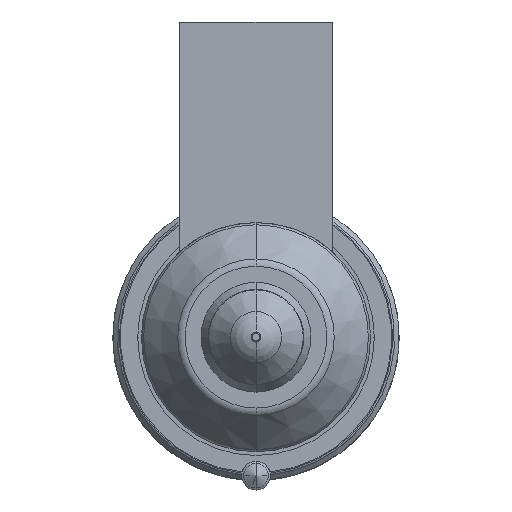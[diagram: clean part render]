
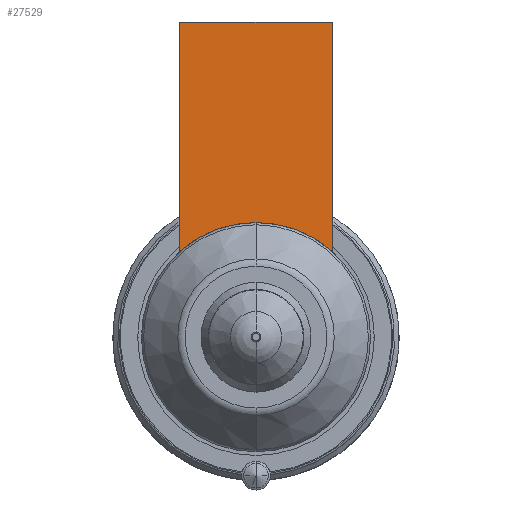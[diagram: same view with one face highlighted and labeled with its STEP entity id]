
A CAD part, front view. The second image highlights one B-rep face of the part: STEP entity #27529.
In plain terms, the highlighted planar face has unit normal (0, -1, 0).
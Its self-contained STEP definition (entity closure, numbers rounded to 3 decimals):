
#26607=DIRECTION('',(0.,0.,-1.));
#26608=VECTOR('',#26607,24.056);
#26609=CARTESIAN_POINT('',(-8.,-56.,33.));
#26610=LINE('',#26609,#26608);
#26647=DIRECTION('',(1.,0.,0.));
#26648=VECTOR('',#26647,16.);
#26649=CARTESIAN_POINT('',(-8.,-56.,33.));
#26650=LINE('',#26649,#26648);
#26654=CARTESIAN_POINT('',(0.,-56.,0.));
#26655=DIRECTION('',(0.,-1.,0.));
#26656=DIRECTION('',(0.667,0.,0.745));
#26657=AXIS2_PLACEMENT_3D('',#26654,#26655,#26656);
#26662=CARTESIAN_POINT('',(0.,-56.,0.));
#26663=DIRECTION('',(0.,-1.,0.));
#26664=DIRECTION('',(0.,0.,1.));
#26665=AXIS2_PLACEMENT_3D('',#26662,#26663,#26664);
#26698=DIRECTION('',(0.,0.,-1.));
#26699=VECTOR('',#26698,24.056);
#26700=CARTESIAN_POINT('',(8.,-56.,33.));
#26701=LINE('',#26700,#26699);
#27365=CARTESIAN_POINT('',(-8.,-56.,33.));
#27366=VERTEX_POINT('',#27365);
#27371=CARTESIAN_POINT('',(8.,-56.,33.));
#27372=VERTEX_POINT('',#27371);
#27375=CARTESIAN_POINT('',(-8.,-56.,8.944));
#27376=VERTEX_POINT('',#27375);
#27379=CARTESIAN_POINT('',(8.,-56.,8.944));
#27380=VERTEX_POINT('',#27379);
#27448=CARTESIAN_POINT('',(0.,-56.,12.));
#27449=VERTEX_POINT('',#27448);
#27514=CARTESIAN_POINT('',(-8.,-56.,33.));
#27515=DIRECTION('',(0.,-1.,0.));
#27516=DIRECTION('',(0.,0.,-1.));
#27517=AXIS2_PLACEMENT_3D('',#27514,#27515,#27516);
#27518=PLANE('',#27517);
#27519=ORIENTED_EDGE('',*,*,#27462,.F.);
#27521=ORIENTED_EDGE('',*,*,#27520,.T.);
#27523=ORIENTED_EDGE('',*,*,#27522,.T.);
#27525=ORIENTED_EDGE('',*,*,#27524,.T.);
#27526=ORIENTED_EDGE('',*,*,#27494,.T.);
#27527=EDGE_LOOP('',(#27519,#27521,#27523,#27525,#27526));
#27528=FACE_OUTER_BOUND('',#27527,.F.);
#27529=ADVANCED_FACE('',(#27528),#27518,.T.);
#26658=CIRCLE('',#26657,12.);
#26666=CIRCLE('',#26665,12.);
#27462=EDGE_CURVE('',#27366,#27376,#26610,.T.);
#27494=EDGE_CURVE('',#27449,#27376,#26666,.T.);
#27520=EDGE_CURVE('',#27366,#27372,#26650,.T.);
#27522=EDGE_CURVE('',#27372,#27380,#26701,.T.);
#27524=EDGE_CURVE('',#27380,#27449,#26658,.T.);
